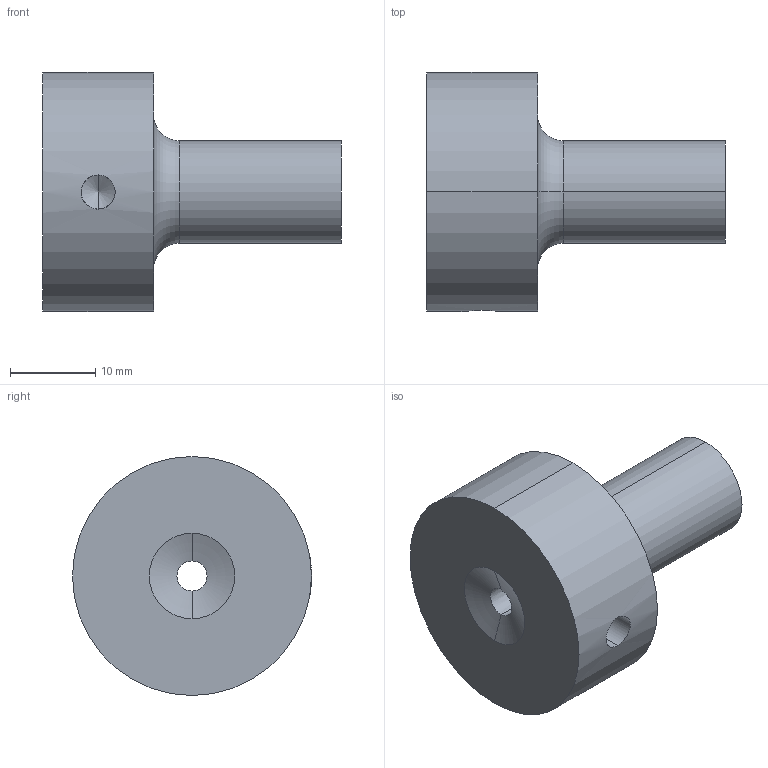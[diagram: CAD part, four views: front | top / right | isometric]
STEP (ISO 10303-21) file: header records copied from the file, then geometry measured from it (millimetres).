
FILE_DESCRIPTION (( 'STEP AP214' ), '1' );
FILE_NAME ('BR511 12X27X2,5X40.STEP', '2019-12-11T08:13:49', ( 'August' ), ( '' ), 'SwSTEP 2.0', 'SolidWorks 2018', '' );
FILE_SCHEMA (( 'AUTOMOTIVE_DESIGN' ));
Length unit declared in the file: millimetre
Products named in the file (1): BR511 12X27X2,5X40
Bounding box: 35 x 28 x 28 mm (x, y, z)
Volume: 9992.8 mm3; surface area: 3653 mm2
Topology: 1 solids, 1 shells, 17 faces, 36 edges, 21 vertices
Faces by surface type: cylinder 6, cone 4, torus 4, plane 3
Entity records: 538 total; most frequent: CARTESIAN_POINT 127, DIRECTION 90, ORIENTED_EDGE 68, AXIS2_PLACEMENT_3D 40, EDGE_CURVE 34, CIRCLE 22, VERTEX_POINT 21, EDGE_LOOP 21
